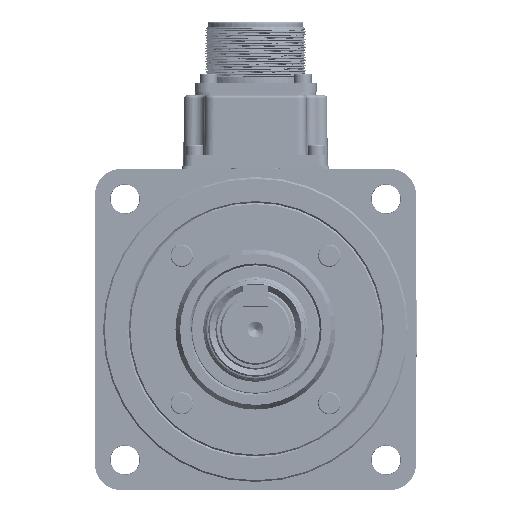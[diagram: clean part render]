
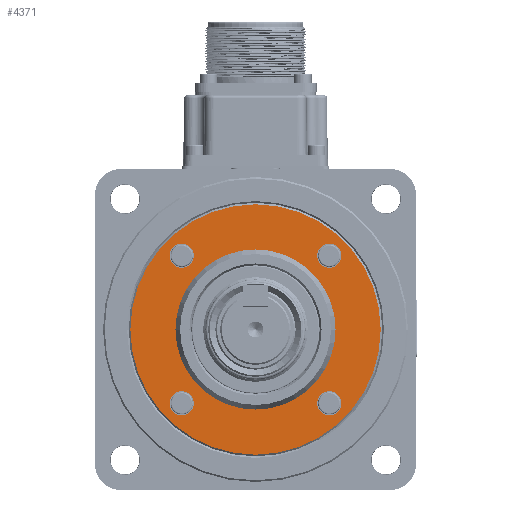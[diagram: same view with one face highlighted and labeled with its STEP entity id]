
A CAD part, left-side view. The second image highlights one B-rep face of the part: STEP entity #4371.
In plain terms, the highlighted planar face has unit normal (-1, 0, 0) as drawn and (0, -1, 0) by its records, which use the part's own axes.
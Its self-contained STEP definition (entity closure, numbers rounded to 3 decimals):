
#4371 = ADVANCED_FACE( '', ( #10227, #10228, #10229, #10230, #10231, #10232 ), #10233, .T. );
#10227 = FACE_OUTER_BOUND( '', #19505, .T. );
#10228 = FACE_BOUND( '', #19506, .T. );
#10229 = FACE_BOUND( '', #19507, .T. );
#10230 = FACE_BOUND( '', #19508, .T. );
#10231 = FACE_BOUND( '', #19509, .T. );
#10232 = FACE_BOUND( '', #19510, .T. );
#10233 = PLANE( '', #19511 );
#19505 = EDGE_LOOP( '', ( #38572 ) );
#19506 = EDGE_LOOP( '', ( #38573 ) );
#19507 = EDGE_LOOP( '', ( #38574 ) );
#19508 = EDGE_LOOP( '', ( #38575 ) );
#19509 = EDGE_LOOP( '', ( #38576 ) );
#19510 = EDGE_LOOP( '', ( #38577 ) );
#19511 = AXIS2_PLACEMENT_3D( '', #38578, #38579, #38580 );
#38572 = ORIENTED_EDGE( '', *, *, #60926, .T. );
#38573 = ORIENTED_EDGE( '', *, *, #60927, .T. );
#38574 = ORIENTED_EDGE( '', *, *, #60928, .T. );
#38575 = ORIENTED_EDGE( '', *, *, #60929, .T. );
#38576 = ORIENTED_EDGE( '', *, *, #60930, .T. );
#38577 = ORIENTED_EDGE( '', *, *, #60931, .F. );
#38578 = CARTESIAN_POINT( '', ( 0., 0.5, 39.5 ) );
#38579 = DIRECTION( '', ( 0., -1., 0. ) );
#38580 = DIRECTION( '', ( 0., 0., -1. ) );
#60926 = EDGE_CURVE( '', #71208, #71208, #71209, .T. );
#60927 = EDGE_CURVE( '', #71210, #71210, #71211, .F. );
#60928 = EDGE_CURVE( '', #71212, #71212, #71213, .F. );
#60929 = EDGE_CURVE( '', #71214, #71214, #71215, .F. );
#60930 = EDGE_CURVE( '', #71216, #71216, #71217, .F. );
#60931 = EDGE_CURVE( '', #71218, #71218, #71219, .T. );
#71208 = VERTEX_POINT( '', #88483 );
#71209 = CIRCLE( '', #88484, 39. );
#71210 = VERTEX_POINT( '', #88485 );
#71211 = CIRCLE( '', #88486, 3.75 );
#71212 = VERTEX_POINT( '', #88487 );
#71213 = CIRCLE( '', #88488, 3.75 );
#71214 = VERTEX_POINT( '', #88489 );
#71215 = CIRCLE( '', #88490, 3.75 );
#71216 = VERTEX_POINT( '', #88491 );
#71217 = CIRCLE( '', #88492, 3.75 );
#71218 = VERTEX_POINT( '', #88493 );
#71219 = CIRCLE( '', #88494, 24.943 );
#88483 = CARTESIAN_POINT( '', ( 0., 0.5, -39. ) );
#88484 = AXIS2_PLACEMENT_3D( '', #109424, #109425, #109426 );
#88485 = CARTESIAN_POINT( '', ( -22.981, 0.5, 19.231 ) );
#88486 = AXIS2_PLACEMENT_3D( '', #109427, #109428, #109429 );
#88487 = CARTESIAN_POINT( '', ( 22.981, 0.5, 19.231 ) );
#88488 = AXIS2_PLACEMENT_3D( '', #109430, #109431, #109432 );
#88489 = CARTESIAN_POINT( '', ( 22.981, 0.5, -26.731 ) );
#88490 = AXIS2_PLACEMENT_3D( '', #109433, #109434, #109435 );
#88491 = CARTESIAN_POINT( '', ( -22.981, 0.5, -26.731 ) );
#88492 = AXIS2_PLACEMENT_3D( '', #109436, #109437, #109438 );
#88493 = CARTESIAN_POINT( '', ( 0., 0.5, -24.943 ) );
#88494 = AXIS2_PLACEMENT_3D( '', #109439, #109440, #109441 );
#109424 = CARTESIAN_POINT( '', ( 0., 0.5, 0. ) );
#109425 = DIRECTION( '', ( 0., -1., 0. ) );
#109426 = DIRECTION( '', ( 0., 0., -1. ) );
#109427 = CARTESIAN_POINT( '', ( -22.981, 0.5, 22.981 ) );
#109428 = DIRECTION( '', ( 0., -1., 0. ) );
#109429 = DIRECTION( '', ( 0., 0., -1. ) );
#109430 = CARTESIAN_POINT( '', ( 22.981, 0.5, 22.981 ) );
#109431 = DIRECTION( '', ( 0., -1., 0. ) );
#109432 = DIRECTION( '', ( 0., 0., -1. ) );
#109433 = CARTESIAN_POINT( '', ( 22.981, 0.5, -22.981 ) );
#109434 = DIRECTION( '', ( 0., -1., 0. ) );
#109435 = DIRECTION( '', ( 0., 0., -1. ) );
#109436 = CARTESIAN_POINT( '', ( -22.981, 0.5, -22.981 ) );
#109437 = DIRECTION( '', ( 0., -1., 0. ) );
#109438 = DIRECTION( '', ( 0., 0., -1. ) );
#109439 = CARTESIAN_POINT( '', ( 0., 0.5, 0. ) );
#109440 = DIRECTION( '', ( 0., -1., 0. ) );
#109441 = DIRECTION( '', ( 0., 0., -1. ) );
